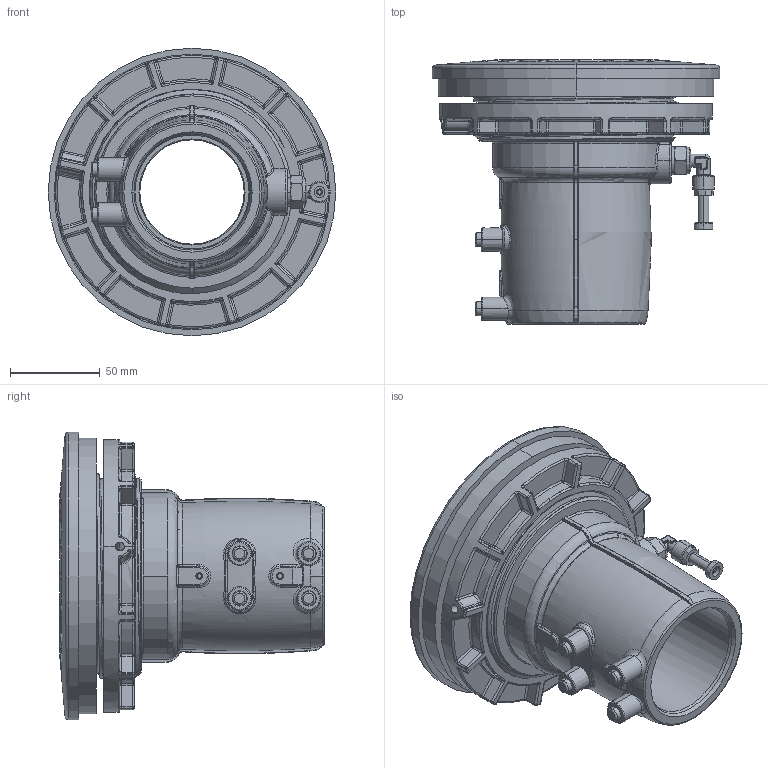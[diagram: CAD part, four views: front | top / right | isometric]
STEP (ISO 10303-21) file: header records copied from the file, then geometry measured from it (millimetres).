
FILE_DESCRIPTION (( 'STEP AP203' ), '1' );
FILE_NAME ('KP_TM75-63SC2A-L.STEP', '2012-01-18T12:38:14', ( '' ), ( '' ), 'SwSTEP 2.0', 'SolidWorks 2012', '' );
FILE_SCHEMA (( 'CONFIG_CONTROL_DESIGN' ));
Length unit declared in the file: millimetre
Products named in the file (1): KP_TM75-63SC2A-L
Bounding box: 160 x 147.06 x 160 mm (x, y, z)
Volume: 692087.3 mm3; surface area: 190293.3 mm2
Topology: 6 solids, 19 shells, 1797 faces, 4338 edges, 2500 vertices
Faces by surface type: bspline 590, cylinder 408, plane 347, torus 215, cone 139, sphere 98
Entity records: 75352 total; most frequent: CARTESIAN_POINT 38823, ORIENTED_EDGE 8384, DIRECTION 6621, EDGE_CURVE 4192, AXIS2_PLACEMENT_3D 2763, VERTEX_POINT 2498, EDGE_LOOP 1880, FACE_OUTER_BOUND 1797
